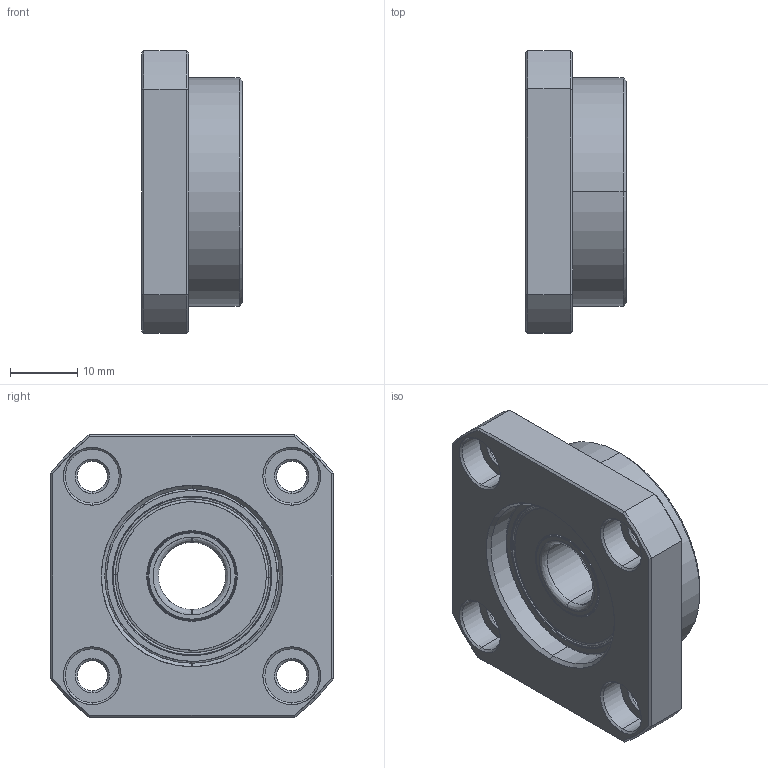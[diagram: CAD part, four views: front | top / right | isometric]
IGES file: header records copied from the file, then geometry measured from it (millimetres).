
Start section: SolidWorks IGES file using analytic representation for surfaces
Bounding box: 15 x 42 x 42 mm (x, y, z)
Surface area: 7295.4 mm2 (no closed solid volume)
Topology: 0 solids, 0 shells, 135 faces, 1720 edges, 1720 vertices
Faces by surface type: revolution 76, bspline 59
